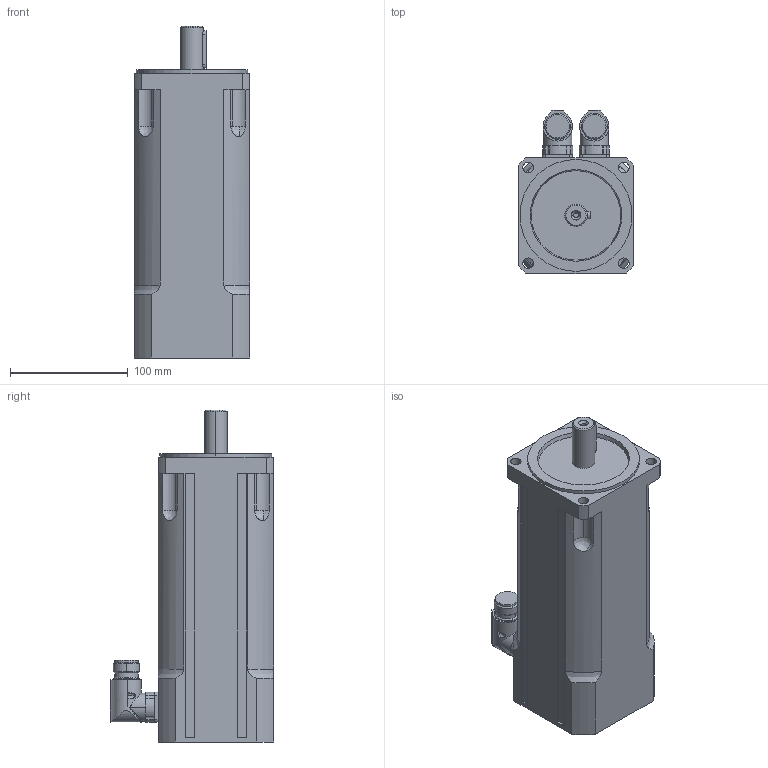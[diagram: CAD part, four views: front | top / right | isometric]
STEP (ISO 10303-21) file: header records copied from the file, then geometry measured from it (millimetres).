
FILE_DESCRIPTION(('STEP AP203'),'2;1');
FILE_NAME('MT4-0750_X.stp','2006-08-28T20:44:23',(''),(''),'2005.2.102','THINKDESIGN','');
FILE_SCHEMA(('CONFIG_CONTROL_DESIGN'));
Length unit declared in the file: millimetre
Bounding box: 98 x 138.5 x 282 mm (x, y, z)
Volume: 2207147.9 mm3; surface area: 133498.8 mm2
Topology: 3 solids, 3 shells, 247 faces, 643 edges, 416 vertices
Faces by surface type: cylinder 110, plane 83, bspline 54
Entity records: 9366 total; most frequent: CARTESIAN_POINT 3252, ORIENTED_EDGE 1286, DIRECTION 1251, EDGE_CURVE 643, AXIS2_PLACEMENT_3D 485, VERTEX_POINT 416, CIRCLE 292, EDGE_LOOP 285
